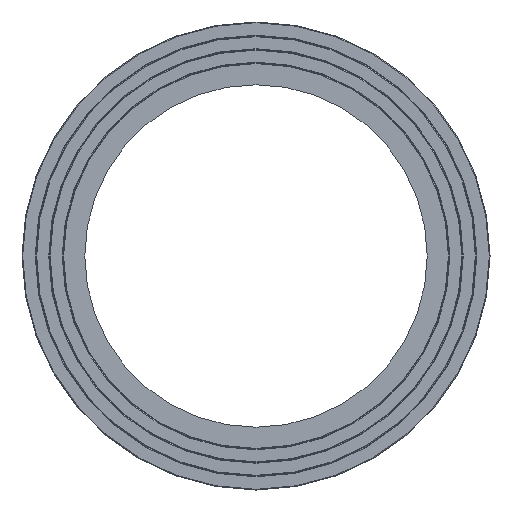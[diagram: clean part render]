
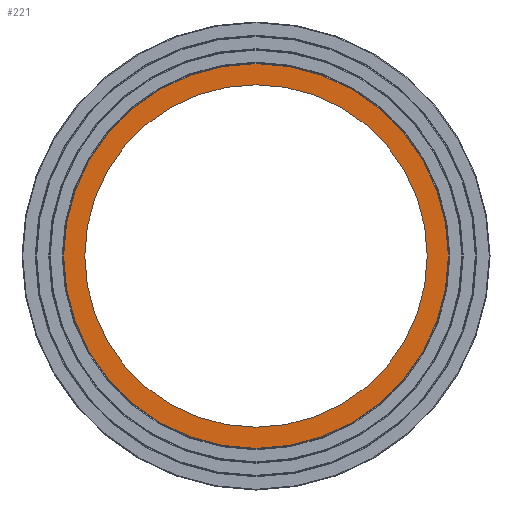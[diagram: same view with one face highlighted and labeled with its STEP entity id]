
A CAD part, left-side view. The second image highlights one B-rep face of the part: STEP entity #221.
In plain terms, the highlighted planar face has unit normal (-1, 0, 0).
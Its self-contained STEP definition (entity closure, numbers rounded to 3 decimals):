
#36=ORIENTED_EDGE('',*,*,#76,.F.);
#37=ORIENTED_EDGE('',*,*,#77,.T.);
#76=EDGE_CURVE('',#96,#96,#116,.T.);
#77=EDGE_CURVE('',#97,#97,#117,.T.);
#96=VERTEX_POINT('',#383);
#97=VERTEX_POINT('',#385);
#116=CIRCLE('',#257,368.1);
#117=CIRCLE('',#258,413.5);
#136=EDGE_LOOP('',(#36));
#137=EDGE_LOOP('',(#37));
#176=FACE_BOUND('',#136,.T.);
#177=FACE_BOUND('',#137,.T.);
#215=PLANE('',#256);
#221=ADVANCED_FACE('',(#176,#177),#215,.F.);
#256=AXIS2_PLACEMENT_3D('',#381,#301,#302);
#257=AXIS2_PLACEMENT_3D('',#382,#303,#304);
#258=AXIS2_PLACEMENT_3D('',#384,#305,#306);
#301=DIRECTION('',(1.,0.,0.));
#302=DIRECTION('',(0.,0.,-1.));
#303=DIRECTION('',(-1.,0.,0.));
#304=DIRECTION('',(0.,0.,1.));
#305=DIRECTION('',(-1.,0.,0.));
#306=DIRECTION('',(0.,0.,1.));
#381=CARTESIAN_POINT('',(0.,0.,503.));
#382=CARTESIAN_POINT('',(0.,0.,0.));
#383=CARTESIAN_POINT('',(0.,0.,368.1));
#384=CARTESIAN_POINT('',(0.,0.,0.));
#385=CARTESIAN_POINT('',(0.,0.,413.5));
